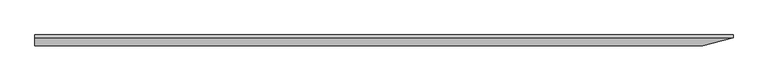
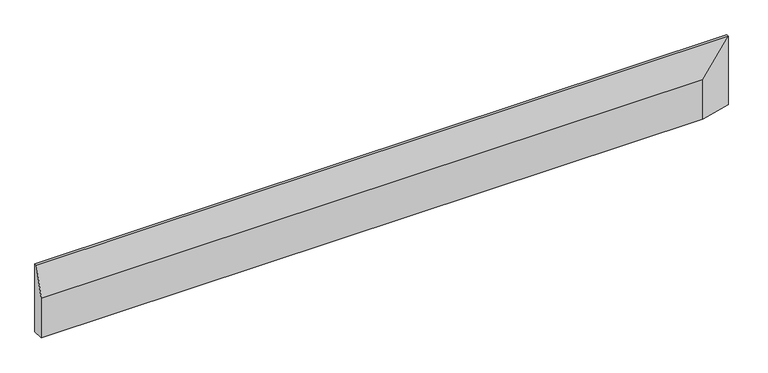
"""IFC4 building model written with IfcOpenShell, lengths in millimetres: proxy geometry, AERO^OFFICE 1_WALL HUNG SHELVES-10x96."""

from ifc_helpers import new_model, si_unit, origin, place, context, project, spatial, faceted_brep, source, transform, mapped, element, save


def generic_models_57509ba5(model_context):
    return source(origin(), model_context, "Body", "Brep", [
        faceted_brep([(2331.7566482, 0.0, -254.0), (2438.4, 28.575, -254.0), (2438.4, 28.575, 0.0), (2331.7566482, 0.0, -106.6433518), (0.0, 0.0, -106.6433518), (0.0, 0.0, -254.0), (0.0, 28.575, 0.0), (0.0, 38.1, 0.0), (0.0, 38.1, -254.0), (2438.4, 38.1, 0.0), (2438.4, 38.1, -254.0)], [[[0, 1, 2, 3]], [[0, 3, 4, 5]], [[3, 2, 6, 4]], [[4, 6, 7, 8, 5]], [[6, 2, 9, 7]], [[1, 0, 5, 8, 10]], [[2, 1, 10, 9]], [[9, 10, 8, 7]]]),
    ])


if __name__ == "__main__":
    model = new_model("IFC4")
    model_context = context("Model", 3, world=origin())
    ifc_project = project(units=[si_unit("LENGTHUNIT", "METRE", prefix="MILLI")], contexts=[model_context])
    site = spatial("IfcSite", under=ifc_project)
    building = spatial("IfcBuilding", under=site)
    placement = place(None, origin())
    generic_models_shape = generic_models_57509ba5(model_context)
    element("IfcBuildingElementProxy", 1, Name="AERO^OFFICE 1_WALL HUNG SHELVES-10x96", ObjectType="AERO^OFFICE 1_WALL HUNG SHELVES-10x96", at=placement, inside=building, context=model_context, shape_type="MappedRepresentation", body=[
        mapped(generic_models_shape, transform((0.0, 0.0, 0.0), x_axis=(1.0, 0.0, 0.0), y_axis=(0.0, 1.0, 0.0), z_axis=(0.0, 0.0, 1.0))),
    ])
    save(model, "model.ifc")
